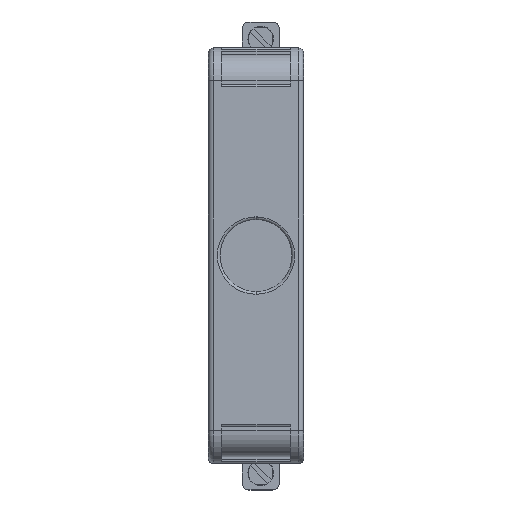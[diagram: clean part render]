
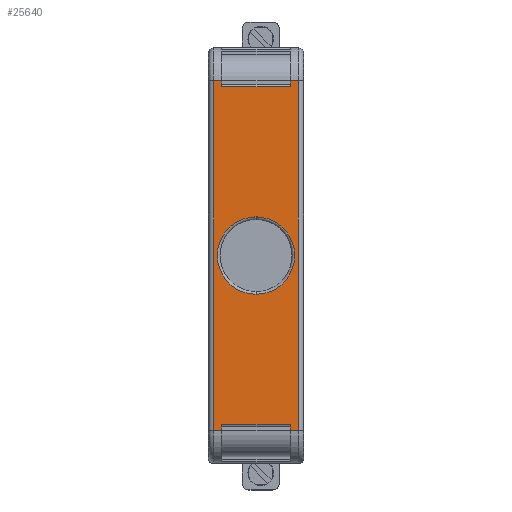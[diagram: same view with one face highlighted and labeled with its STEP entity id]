
A CAD part, top view. The second image highlights one B-rep face of the part: STEP entity #25640.
In plain terms, the highlighted planar face has unit normal (0, 0, 1).
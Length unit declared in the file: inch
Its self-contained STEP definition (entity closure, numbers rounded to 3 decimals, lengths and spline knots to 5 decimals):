
#4876=DIRECTION('',(-1.,0.,0.));
#4877=VECTOR('',#4876,0.04921);
#4878=CARTESIAN_POINT('',(0.1105,-1.06067,
4.31143));
#4879=LINE('',#4878,#4877);
#4906=DIRECTION('',(0.,1.,0.));
#4907=VECTOR('',#4906,0.03543);
#4908=CARTESIAN_POINT('',(0.06129,-1.06067,
4.31143));
#4909=LINE('',#4908,#4907);
#4980=DIRECTION('',(-1.,0.,0.));
#4981=VECTOR('',#4980,0.40945);
#4982=CARTESIAN_POINT('',(0.06129,-1.02524,
4.31143));
#4983=LINE('',#4982,#4981);
#4988=CARTESIAN_POINT('',(-0.14343,-0.01047,
4.31143));
#4989=DIRECTION('',(0.,0.,-1.));
#4990=DIRECTION('',(0.,1.,0.));
#4991=AXIS2_PLACEMENT_3D('',#4988,#4989,#4990);
#4997=DIRECTION('',(0.,-1.,0.));
#4998=VECTOR('',#4997,2.10039);
#4999=CARTESIAN_POINT('',(0.1105,1.03972,4.31143));
#5000=LINE('',#4999,#4998);
#5020=DIRECTION('',(1.,0.,0.));
#5021=VECTOR('',#5020,0.04921);
#5022=CARTESIAN_POINT('',(0.06129,1.03972,4.31143));
#5023=LINE('',#5022,#5021);
#5071=DIRECTION('',(0.,1.,0.));
#5072=VECTOR('',#5071,0.03543);
#5073=CARTESIAN_POINT('',(0.06129,1.00429,4.31143));
#5074=LINE('',#5073,#5072);
#5149=DIRECTION('',(0.,-1.,0.));
#5150=VECTOR('',#5149,0.03543);
#5151=CARTESIAN_POINT('',(-0.34816,1.03972,
4.31143));
#5152=LINE('',#5151,#5150);
#5188=DIRECTION('',(1.,0.,0.));
#5189=VECTOR('',#5188,0.40945);
#5190=CARTESIAN_POINT('',(-0.34816,1.00429,
4.31143));
#5191=LINE('',#5190,#5189);
#5196=DIRECTION('',(1.,0.,0.));
#5197=VECTOR('',#5196,0.04921);
#5198=CARTESIAN_POINT('',(-0.39737,1.03972,
4.31143));
#5199=LINE('',#5198,#5197);
#5457=DIRECTION('',(0.,1.,0.));
#5458=VECTOR('',#5457,2.10039);
#5459=CARTESIAN_POINT('',(-0.39737,-1.06067,
4.31143));
#5460=LINE('',#5459,#5458);
#5480=DIRECTION('',(-1.,0.,0.));
#5481=VECTOR('',#5480,0.04921);
#5482=CARTESIAN_POINT('',(-0.34816,-1.06067,
4.31143));
#5483=LINE('',#5482,#5481);
#5499=DIRECTION('',(0.,-1.,0.));
#5500=VECTOR('',#5499,0.03543);
#5501=CARTESIAN_POINT('',(-0.34816,-1.02524,
4.31143));
#5502=LINE('',#5501,#5500);
#6513=CARTESIAN_POINT('',(-0.14343,-0.01047,
4.31143));
#6514=DIRECTION('',(0.,0.,-1.));
#6515=DIRECTION('',(0.,-1.,0.));
#6516=AXIS2_PLACEMENT_3D('',#6513,#6514,#6515);
#18151=CARTESIAN_POINT('',(0.1105,1.03972,
4.31143));
#18152=CARTESIAN_POINT('',(0.1105,-1.06067,
4.31143));
#18153=VERTEX_POINT('',#18151);
#18154=VERTEX_POINT('',#18152);
#18155=CARTESIAN_POINT('',(0.06129,-1.06067,
4.31143));
#18156=VERTEX_POINT('',#18155);
#18157=CARTESIAN_POINT('',(0.06129,-1.02524,
4.31143));
#18158=VERTEX_POINT('',#18157);
#18159=CARTESIAN_POINT('',(-0.34816,-1.02524,
4.31143));
#18160=VERTEX_POINT('',#18159);
#18161=CARTESIAN_POINT('',(-0.34816,-1.06067,
4.31143));
#18162=VERTEX_POINT('',#18161);
#18163=CARTESIAN_POINT('',(-0.39737,-1.06067,
4.31143));
#18164=VERTEX_POINT('',#18163);
#18165=CARTESIAN_POINT('',(-0.39737,1.03972,
4.31143));
#18166=VERTEX_POINT('',#18165);
#18167=CARTESIAN_POINT('',(-0.34816,1.03972,
4.31143));
#18168=VERTEX_POINT('',#18167);
#18169=CARTESIAN_POINT('',(-0.34816,1.00429,
4.31143));
#18170=VERTEX_POINT('',#18169);
#18171=CARTESIAN_POINT('',(0.06129,1.00429,
4.31143));
#18172=VERTEX_POINT('',#18171);
#18173=CARTESIAN_POINT('',(0.06129,1.03972,
4.31143));
#18174=VERTEX_POINT('',#18173);
#18175=CARTESIAN_POINT('',(-0.14343,0.22181,
4.31143));
#18176=CARTESIAN_POINT('',(-0.14343,-0.24276,
4.31143));
#18177=VERTEX_POINT('',#18175);
#18178=VERTEX_POINT('',#18176);
#25606=CARTESIAN_POINT('',(-0.14343,-0.01047,
4.31143));
#25607=DIRECTION('',(0.,0.,-1.));
#25608=DIRECTION('',(-1.,0.,0.));
#25609=AXIS2_PLACEMENT_3D('',#25606,#25607,#25608);
#25610=PLANE('',#25609);
#25612=ORIENTED_EDGE('',*,*,#25611,.T.);
#25613=ORIENTED_EDGE('',*,*,#25468,.T.);
#25614=ORIENTED_EDGE('',*,*,#25492,.T.);
#25615=ORIENTED_EDGE('',*,*,#25597,.T.);
#25617=ORIENTED_EDGE('',*,*,#25616,.T.);
#25619=ORIENTED_EDGE('',*,*,#25618,.T.);
#25621=ORIENTED_EDGE('',*,*,#25620,.T.);
#25623=ORIENTED_EDGE('',*,*,#25622,.T.);
#25625=ORIENTED_EDGE('',*,*,#25624,.T.);
#25627=ORIENTED_EDGE('',*,*,#25626,.T.);
#25629=ORIENTED_EDGE('',*,*,#25628,.T.);
#25631=ORIENTED_EDGE('',*,*,#25630,.T.);
#25632=EDGE_LOOP('',(#25612,#25613,#25614,#25615,#25617,#25619,#25621,#25623,
#25625,#25627,#25629,#25631));
#25633=FACE_OUTER_BOUND('',#25632,.F.);
#25635=ORIENTED_EDGE('',*,*,#25634,.F.);
#25637=ORIENTED_EDGE('',*,*,#25636,.F.);
#25638=EDGE_LOOP('',(#25635,#25637));
#25639=FACE_BOUND('',#25638,.F.);
#25640=ADVANCED_FACE('',(#25633,#25639),#25610,.F.);
#4992=CIRCLE('',#4991,0.23228);
#6517=CIRCLE('',#6516,0.23228);
#25468=EDGE_CURVE('',#18154,#18156,#4879,.T.);
#25492=EDGE_CURVE('',#18156,#18158,#4909,.T.);
#25597=EDGE_CURVE('',#18158,#18160,#4983,.T.);
#25611=EDGE_CURVE('',#18153,#18154,#5000,.T.);
#25616=EDGE_CURVE('',#18160,#18162,#5502,.T.);
#25618=EDGE_CURVE('',#18162,#18164,#5483,.T.);
#25620=EDGE_CURVE('',#18164,#18166,#5460,.T.);
#25622=EDGE_CURVE('',#18166,#18168,#5199,.T.);
#25624=EDGE_CURVE('',#18168,#18170,#5152,.T.);
#25626=EDGE_CURVE('',#18170,#18172,#5191,.T.);
#25628=EDGE_CURVE('',#18172,#18174,#5074,.T.);
#25630=EDGE_CURVE('',#18174,#18153,#5023,.T.);
#25634=EDGE_CURVE('',#18178,#18177,#6517,.T.);
#25636=EDGE_CURVE('',#18177,#18178,#4992,.T.);
